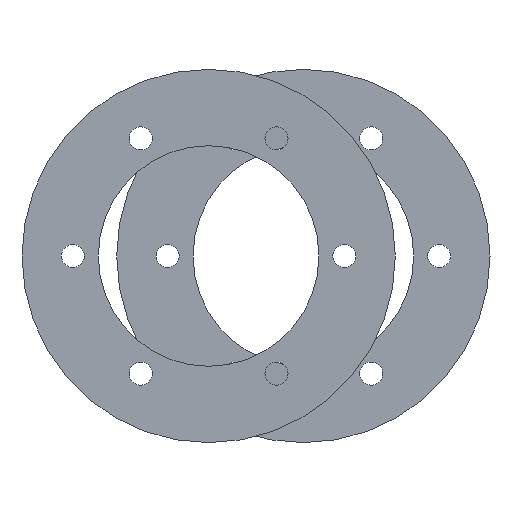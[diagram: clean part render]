
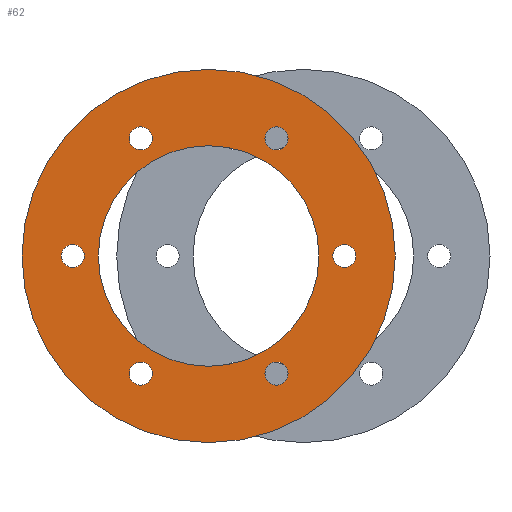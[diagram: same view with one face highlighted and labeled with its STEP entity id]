
A CAD part, left-side view. The second image highlights one B-rep face of the part: STEP entity #62.
In plain terms, the highlighted planar face has unit normal (-1, 0, 0).
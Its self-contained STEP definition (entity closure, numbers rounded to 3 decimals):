
#62 = ADVANCED_FACE( 'NONE', ( #117, #118, #119, #120, #121, #122, #123, #124 ), #125, .F. );
#117 = FACE_OUTER_BOUND( '', #187, .T. );
#118 = FACE_BOUND( '', #188, .T. );
#119 = FACE_BOUND( '', #189, .T. );
#120 = FACE_BOUND( '', #190, .T. );
#121 = FACE_BOUND( '', #191, .T. );
#122 = FACE_BOUND( '', #192, .T. );
#123 = FACE_BOUND( '', #193, .T. );
#124 = FACE_BOUND( '', #194, .T. );
#125 = PLANE( '', #195 );
#187 = EDGE_LOOP( '', ( #295 ) );
#188 = EDGE_LOOP( '', ( #296 ) );
#189 = EDGE_LOOP( '', ( #297 ) );
#190 = EDGE_LOOP( '', ( #298 ) );
#191 = EDGE_LOOP( '', ( #299 ) );
#192 = EDGE_LOOP( '', ( #300 ) );
#193 = EDGE_LOOP( '', ( #301 ) );
#194 = EDGE_LOOP( '', ( #302 ) );
#195 = AXIS2_PLACEMENT_3D( '', #303, #304, #305 );
#295 = ORIENTED_EDGE( '', *, *, #454, .T. );
#296 = ORIENTED_EDGE( '', *, *, #460, .F. );
#297 = ORIENTED_EDGE( '', *, *, #461, .F. );
#298 = ORIENTED_EDGE( '', *, *, #457, .F. );
#299 = ORIENTED_EDGE( '', *, *, #445, .F. );
#300 = ORIENTED_EDGE( '', *, *, #448, .F. );
#301 = ORIENTED_EDGE( '', *, *, #462, .F. );
#302 = ORIENTED_EDGE( '', *, *, #451, .F. );
#303 = CARTESIAN_POINT( '', ( 0., 32.5, 0. ) );
#304 = DIRECTION( '', ( 1., 0., 0. ) );
#305 = DIRECTION( '', ( 0., 1., 0. ) );
#445 = EDGE_CURVE( 'NONE', #579, #579, #580, .T. );
#448 = EDGE_CURVE( 'NONE', #584, #584, #585, .T. );
#451 = EDGE_CURVE( 'NONE', #589, #589, #590, .T. );
#454 = EDGE_CURVE( 'NONE', #594, #594, #595, .T. );
#457 = EDGE_CURVE( 'NONE', #599, #599, #600, .T. );
#460 = EDGE_CURVE( 'NONE', #604, #604, #605, .T. );
#461 = EDGE_CURVE( 'NONE', #606, #606, #607, .T. );
#462 = EDGE_CURVE( 'NONE', #608, #608, #609, .T. );
#579 = VERTEX_POINT( '', #801 );
#580 = CIRCLE( '', #802, 3.4 );
#584 = VERTEX_POINT( '', #806 );
#585 = CIRCLE( '', #807, 3.4 );
#589 = VERTEX_POINT( '', #811 );
#590 = CIRCLE( '', #812, 3.4 );
#594 = VERTEX_POINT( '', #816 );
#595 = CIRCLE( '', #817, 55. );
#599 = VERTEX_POINT( '', #821 );
#600 = CIRCLE( '', #822, 32.5 );
#604 = VERTEX_POINT( '', #826 );
#605 = CIRCLE( '', #827, 3.4 );
#606 = VERTEX_POINT( '', #828 );
#607 = CIRCLE( '', #829, 3.4 );
#608 = VERTEX_POINT( '', #830 );
#609 = CIRCLE( '', #831, 3.4 );
#801 = CARTESIAN_POINT( '', ( 0., 40., 3.4 ) );
#802 = AXIS2_PLACEMENT_3D( '', #878, #879, #880 );
#806 = CARTESIAN_POINT( '', ( 0., 20., -31.241 ) );
#807 = AXIS2_PLACEMENT_3D( '', #884, #885, #886 );
#811 = CARTESIAN_POINT( '', ( 0., 20., 38.041 ) );
#812 = AXIS2_PLACEMENT_3D( '', #890, #891, #892 );
#816 = CARTESIAN_POINT( '', ( 0., 0., 55. ) );
#817 = AXIS2_PLACEMENT_3D( '', #896, #897, #898 );
#821 = CARTESIAN_POINT( '', ( 0., 0., 32.5 ) );
#822 = AXIS2_PLACEMENT_3D( '', #902, #903, #904 );
#826 = CARTESIAN_POINT( '', ( 0., -20., 38.041 ) );
#827 = AXIS2_PLACEMENT_3D( '', #908, #909, #910 );
#828 = CARTESIAN_POINT( '', ( 0., -20., -31.241 ) );
#829 = AXIS2_PLACEMENT_3D( '', #911, #912, #913 );
#830 = CARTESIAN_POINT( '', ( 0., -40., 3.4 ) );
#831 = AXIS2_PLACEMENT_3D( '', #914, #915, #916 );
#878 = CARTESIAN_POINT( '', ( 0., 40., 0. ) );
#879 = DIRECTION( '', ( -1., 0., 0. ) );
#880 = DIRECTION( '', ( 0., 0., 1. ) );
#884 = CARTESIAN_POINT( '', ( 0., 20., -34.641 ) );
#885 = DIRECTION( '', ( -1., 0., 0. ) );
#886 = DIRECTION( '', ( 0., 0., 1. ) );
#890 = CARTESIAN_POINT( '', ( 0., 20., 34.641 ) );
#891 = DIRECTION( '', ( -1., 0., 0. ) );
#892 = DIRECTION( '', ( 0., 0., 1. ) );
#896 = CARTESIAN_POINT( '', ( 0., 0., 0. ) );
#897 = DIRECTION( '', ( -1., 0., 0. ) );
#898 = DIRECTION( '', ( 0., 0., 1. ) );
#902 = CARTESIAN_POINT( '', ( 0., 0., 0. ) );
#903 = DIRECTION( '', ( -1., 0., 0. ) );
#904 = DIRECTION( '', ( 0., 0., 1. ) );
#908 = CARTESIAN_POINT( '', ( 0., -20., 34.641 ) );
#909 = DIRECTION( '', ( -1., 0., 0. ) );
#910 = DIRECTION( '', ( 0., 0., 1. ) );
#911 = CARTESIAN_POINT( '', ( 0., -20., -34.641 ) );
#912 = DIRECTION( '', ( -1., 0., 0. ) );
#913 = DIRECTION( '', ( 0., 0., 1. ) );
#914 = CARTESIAN_POINT( '', ( 0., -40., 0. ) );
#915 = DIRECTION( '', ( -1., 0., 0. ) );
#916 = DIRECTION( '', ( 0., 0., 1. ) );
